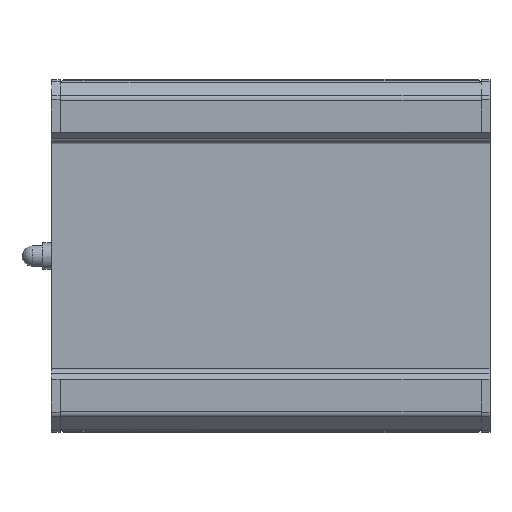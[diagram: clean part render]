
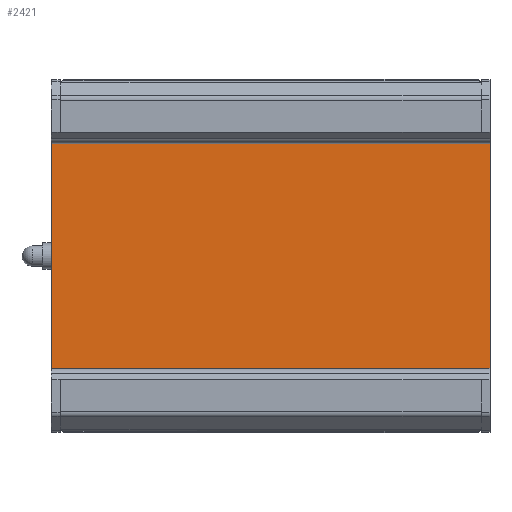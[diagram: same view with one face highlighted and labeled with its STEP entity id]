
A CAD part, front view. The second image highlights one B-rep face of the part: STEP entity #2421.
In plain terms, the highlighted planar face has unit normal (0, -1, 0).
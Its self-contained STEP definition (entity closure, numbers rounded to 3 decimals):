
#52=LINE('',#3422,#310);
#76=LINE('',#3484,#334);
#285=LINE('',#4024,#543);
#286=LINE('',#4026,#544);
#310=VECTOR('',#2731,1000.);
#334=VECTOR('',#2777,1000.);
#543=VECTOR('',#3324,1000.);
#544=VECTOR('',#3327,1000.);
#654=PLANE('',#2657);
#1322=ORIENTED_EDGE('',*,*,#1382,.F.);
#1323=ORIENTED_EDGE('',*,*,#1673,.F.);
#1324=ORIENTED_EDGE('',*,*,#1412,.T.);
#1325=ORIENTED_EDGE('',*,*,#1674,.T.);
#1382=EDGE_CURVE('',#1712,#1713,#52,.T.);
#1412=EDGE_CURVE('',#1740,#1739,#76,.T.);
#1673=EDGE_CURVE('',#1740,#1712,#285,.T.);
#1674=EDGE_CURVE('',#1739,#1713,#286,.T.);
#1712=VERTEX_POINT('',#3421);
#1713=VERTEX_POINT('',#3423);
#1739=VERTEX_POINT('',#3483);
#1740=VERTEX_POINT('',#3485);
#2121=EDGE_LOOP('',(#1322,#1323,#1324,#1325));
#2283=FACE_BOUND('',#2121,.T.);
#2421=ADVANCED_FACE('',(#2283),#654,.T.);
#2657=AXIS2_PLACEMENT_3D('',#4025,#3325,#3326);
#2731=DIRECTION('',(0.,0.,1.));
#2777=DIRECTION('',(0.,0.,1.));
#3324=DIRECTION('',(-1.,0.,0.));
#3325=DIRECTION('',(0.,-1.,0.));
#3326=DIRECTION('',(0.,0.,-1.));
#3327=DIRECTION('',(-1.,0.,0.));
#3421=CARTESIAN_POINT('',(-37.25,6.8,-19.7));
#3422=CARTESIAN_POINT('',(-37.25,6.8,-19.7));
#3423=CARTESIAN_POINT('',(-37.25,6.8,19.7));
#3483=CARTESIAN_POINT('',(37.25,6.8,19.7));
#3484=CARTESIAN_POINT('',(37.25,6.8,-19.7));
#3485=CARTESIAN_POINT('',(37.25,6.8,-19.7));
#4024=CARTESIAN_POINT('',(37.25,6.8,-19.7));
#4025=CARTESIAN_POINT('',(37.25,6.8,-19.7));
#4026=CARTESIAN_POINT('',(37.25,6.8,19.7));
